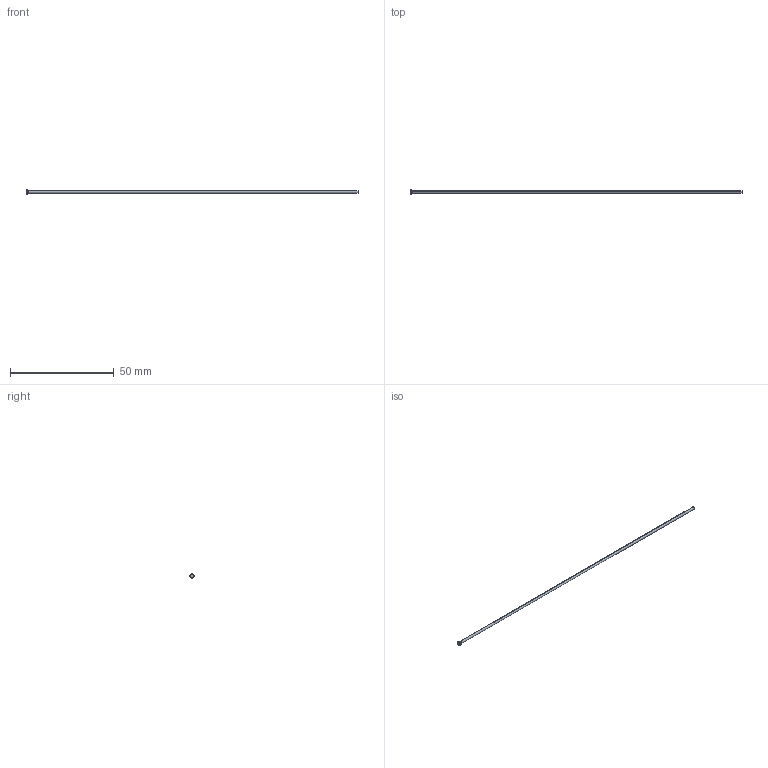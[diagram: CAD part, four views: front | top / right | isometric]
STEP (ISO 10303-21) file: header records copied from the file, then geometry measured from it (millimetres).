
FILE_DESCRIPTION (( 'STEP AP214' ), '1' );
FILE_NAME ('D-1,3x160.STEP', '2020-06-08T09:16:50', ( 'August' ), ( '' ), 'SwSTEP 2.0', 'SolidWorks 2018', '' );
FILE_SCHEMA (( 'AUTOMOTIVE_DESIGN' ));
Length unit declared in the file: millimetre
Products named in the file (1): D-1,3x160
Bounding box: 160 x 2 x 2 mm (x, y, z)
Volume: 213.8 mm3; surface area: 660.2 mm2
Topology: 1 solids, 1 shells, 10 faces, 18 edges, 10 vertices
Faces by surface type: cylinder 4, torus 2, cone 2, plane 2
Entity records: 280 total; most frequent: DIRECTION 52, CARTESIAN_POINT 39, ORIENTED_EDGE 36, AXIS2_PLACEMENT_3D 23, EDGE_CURVE 18, CIRCLE 12, EDGE_LOOP 10, ADVANCED_FACE 10
